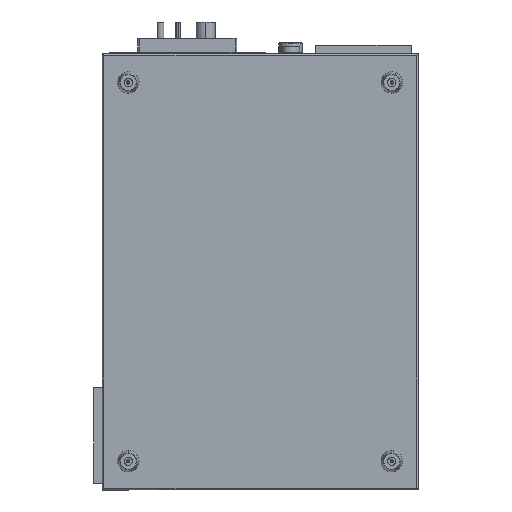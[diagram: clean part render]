
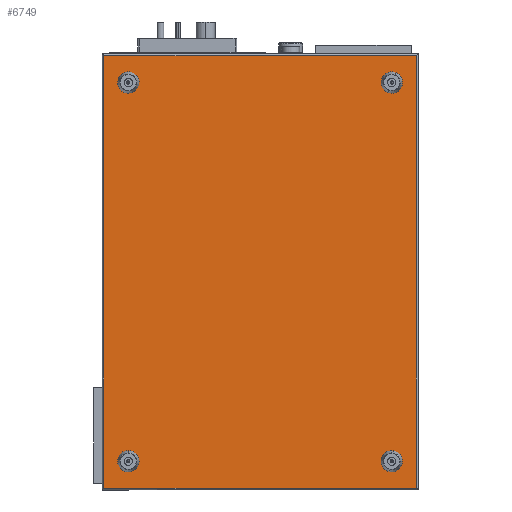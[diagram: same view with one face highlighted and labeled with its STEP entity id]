
A CAD part, front view. The second image highlights one B-rep face of the part: STEP entity #6749.
In plain terms, the highlighted planar face has unit normal (0, -1, 0).
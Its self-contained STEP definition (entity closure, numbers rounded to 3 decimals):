
#9 = VERTEX_POINT ( 'NONE', #9819 ) ;
#25 = FACE_BOUND ( 'NONE', #10509, .T. ) ;
#244 = VECTOR ( 'NONE', #7335, 1000. ) ;
#295 = DIRECTION ( 'NONE',  ( 0., 0., -1. ) ) ;
#314 = DIRECTION ( 'NONE',  ( 0., -1., 0. ) ) ;
#350 = CARTESIAN_POINT ( 'NONE',  ( 0., -1.5, 0. ) ) ;
#377 = LINE ( 'NONE', #2266, #244 ) ;
#408 = LINE ( 'NONE', #3210, #1540 ) ;
#422 = DIRECTION ( 'NONE',  ( 0., -1., 0. ) ) ;
#462 = EDGE_CURVE ( 'NONE', #10344, #10081, #4402, .T. ) ;
#477 = CIRCLE ( 'NONE', #9040, 1.65 ) ;
#694 = VERTEX_POINT ( 'NONE', #8421 ) ;
#760 = EDGE_CURVE ( 'NONE', #9, #4013, #1677, .T. ) ;
#782 = ORIENTED_EDGE ( 'NONE', *, *, #5470, .F. ) ;
#942 = CARTESIAN_POINT ( 'NONE',  ( 189.76, -1.5, 262.76 ) ) ;
#1035 = EDGE_CURVE ( 'NONE', #4020, #2489, #408, .T. ) ;
#1050 = DIRECTION ( 'NONE',  ( 1., 0., 0. ) ) ;
#1125 = DIRECTION ( 'NONE',  ( 0., 0., -1. ) ) ;
#1176 = CARTESIAN_POINT ( 'NONE',  ( 159.922, -1.5, -231.722 ) ) ;
#1196 = FACE_BOUND ( 'NONE', #9222, .T. ) ;
#1207 = ORIENTED_EDGE ( 'NONE', *, *, #7307, .F. ) ;
#1300 = CARTESIAN_POINT ( 'NONE',  ( -160.078, -1.5, -230.072 ) ) ;
#1340 = CARTESIAN_POINT ( 'NONE',  ( 159.922, -1.5, -228.422 ) ) ;
#1341 = EDGE_CURVE ( 'NONE', #8015, #5950, #2970, .T. ) ;
#1358 = EDGE_CURVE ( 'NONE', #10098, #694, #2573, .T. ) ;
#1436 = ORIENTED_EDGE ( 'NONE', *, *, #2170, .F. ) ;
#1493 = CARTESIAN_POINT ( 'NONE',  ( -160.078, -1.5, -231.722 ) ) ;
#1540 = VECTOR ( 'NONE', #7339, 1000. ) ;
#1677 = LINE ( 'NONE', #2708, #8544 ) ;
#1760 = CARTESIAN_POINT ( 'NONE',  ( 192., -1.5, -262.76 ) ) ;
#1863 = EDGE_CURVE ( 'NONE', #9313, #9794, #3097, .T. ) ;
#1882 = DIRECTION ( 'NONE',  ( 0., -1., 0. ) ) ;
#1935 = DIRECTION ( 'NONE',  ( 0., -1., 0. ) ) ;
#2094 = DIRECTION ( 'NONE',  ( 0., -1., 0. ) ) ;
#2124 = ORIENTED_EDGE ( 'NONE', *, *, #1863, .F. ) ;
#2170 = EDGE_CURVE ( 'NONE', #694, #10098, #4114, .T. ) ;
#2266 = CARTESIAN_POINT ( 'NONE',  ( -192., -1.5, 262.76 ) ) ;
#2346 = EDGE_CURVE ( 'NONE', #2489, #9, #377, .T. ) ;
#2418 = LINE ( 'NONE', #1760, #4246 ) ;
#2489 = VERTEX_POINT ( 'NONE', #942 ) ;
#2573 = CIRCLE ( 'NONE', #9442, 1.65 ) ;
#2595 = ORIENTED_EDGE ( 'NONE', *, *, #760, .T. ) ;
#2599 = CARTESIAN_POINT ( 'NONE',  ( -160.078, -1.5, 231.578 ) ) ;
#2708 = CARTESIAN_POINT ( 'NONE',  ( -189.76, -1.5, 0. ) ) ;
#2720 = DIRECTION ( 'NONE',  ( 0., 0., -1. ) ) ;
#2790 = CARTESIAN_POINT ( 'NONE',  ( 159.922, -1.5, 231.578 ) ) ;
#2849 = DIRECTION ( 'NONE',  ( 0., 0., -1. ) ) ;
#2870 = CIRCLE ( 'NONE', #6334, 1.65 ) ;
#2970 = CIRCLE ( 'NONE', #4091, 1.65 ) ;
#3097 = CIRCLE ( 'NONE', #8676, 1.65 ) ;
#3210 = CARTESIAN_POINT ( 'NONE',  ( 189.76, -1.5, 265. ) ) ;
#3246 = EDGE_LOOP ( 'NONE', ( #2595, #10545, #6434, #4730 ) ) ;
#3439 = EDGE_LOOP ( 'NONE', ( #6443, #3889 ) ) ;
#3620 = DIRECTION ( 'NONE',  ( 0., 0., -1. ) ) ;
#3685 = CARTESIAN_POINT ( 'NONE',  ( 159.922, -1.5, 228.278 ) ) ;
#3762 = CARTESIAN_POINT ( 'NONE',  ( -160.078, -1.5, 229.928 ) ) ;
#3781 = FACE_BOUND ( 'NONE', #7445, .T. ) ;
#3889 = ORIENTED_EDGE ( 'NONE', *, *, #4226, .F. ) ;
#4013 = VERTEX_POINT ( 'NONE', #8601 ) ;
#4020 = VERTEX_POINT ( 'NONE', #8567 ) ;
#4091 = AXIS2_PLACEMENT_3D ( 'NONE', #7746, #4437, #295 ) ;
#4114 = CIRCLE ( 'NONE', #7546, 1.65 ) ;
#4187 = CARTESIAN_POINT ( 'NONE',  ( 159.922, -1.5, -230.072 ) ) ;
#4226 = EDGE_CURVE ( 'NONE', #5950, #8015, #477, .T. ) ;
#4246 = VECTOR ( 'NONE', #1050, 1000. ) ;
#4402 = CIRCLE ( 'NONE', #7101, 1.65 ) ;
#4437 = DIRECTION ( 'NONE',  ( 0., -1., 0. ) ) ;
#4456 = CARTESIAN_POINT ( 'NONE',  ( 159.922, -1.5, -230.072 ) ) ;
#4624 = DIRECTION ( 'NONE',  ( 0., 0., -1. ) ) ;
#4730 = ORIENTED_EDGE ( 'NONE', *, *, #2346, .T. ) ;
#4751 = AXIS2_PLACEMENT_3D ( 'NONE', #350, #1882, #2720 ) ;
#5470 = EDGE_CURVE ( 'NONE', #10081, #10344, #10635, .T. ) ;
#5491 = DIRECTION ( 'NONE',  ( 0., -1., 0. ) ) ;
#5869 = DIRECTION ( 'NONE',  ( 0., -1., 0. ) ) ;
#5913 = CARTESIAN_POINT ( 'NONE',  ( -160.078, -1.5, 228.278 ) ) ;
#5950 = VERTEX_POINT ( 'NONE', #2790 ) ;
#6056 = DIRECTION ( 'NONE',  ( 0., 0., -1. ) ) ;
#6100 = CARTESIAN_POINT ( 'NONE',  ( 159.922, -1.5, 229.928 ) ) ;
#6184 = CARTESIAN_POINT ( 'NONE',  ( -160.078, -1.5, -230.072 ) ) ;
#6263 = DIRECTION ( 'NONE',  ( 0., 0., -1. ) ) ;
#6334 = AXIS2_PLACEMENT_3D ( 'NONE', #4456, #314, #6056 ) ;
#6434 = ORIENTED_EDGE ( 'NONE', *, *, #1035, .T. ) ;
#6443 = ORIENTED_EDGE ( 'NONE', *, *, #1341, .F. ) ;
#6749 = ADVANCED_FACE ( 'NONE', ( #1196, #8299, #25, #3781, #10485 ), #10136, .T. ) ;
#7101 = AXIS2_PLACEMENT_3D ( 'NONE', #7972, #5491, #4624 ) ;
#7307 = EDGE_CURVE ( 'NONE', #9794, #9313, #2870, .T. ) ;
#7335 = DIRECTION ( 'NONE',  ( -1., 0., 0. ) ) ;
#7339 = DIRECTION ( 'NONE',  ( 0., 0., 1. ) ) ;
#7445 = EDGE_LOOP ( 'NONE', ( #1207, #2124 ) ) ;
#7546 = AXIS2_PLACEMENT_3D ( 'NONE', #1300, #2094, #6263 ) ;
#7746 = CARTESIAN_POINT ( 'NONE',  ( 159.922, -1.5, 229.928 ) ) ;
#7768 = DIRECTION ( 'NONE',  ( 0., 0., -1. ) ) ;
#7972 = CARTESIAN_POINT ( 'NONE',  ( -160.078, -1.5, 229.928 ) ) ;
#8015 = VERTEX_POINT ( 'NONE', #3685 ) ;
#8299 = FACE_BOUND ( 'NONE', #3439, .T. ) ;
#8421 = CARTESIAN_POINT ( 'NONE',  ( -160.078, -1.5, -228.422 ) ) ;
#8544 = VECTOR ( 'NONE', #1125, 1000. ) ;
#8567 = CARTESIAN_POINT ( 'NONE',  ( 189.76, -1.5, -262.76 ) ) ;
#8583 = DIRECTION ( 'NONE',  ( 0., -1., 0. ) ) ;
#8601 = CARTESIAN_POINT ( 'NONE',  ( -189.76, -1.5, -262.76 ) ) ;
#8676 = AXIS2_PLACEMENT_3D ( 'NONE', #4187, #5869, #9948 ) ;
#9040 = AXIS2_PLACEMENT_3D ( 'NONE', #6100, #8583, #3620 ) ;
#9222 = EDGE_LOOP ( 'NONE', ( #782, #10588 ) ) ;
#9313 = VERTEX_POINT ( 'NONE', #1340 ) ;
#9327 = ORIENTED_EDGE ( 'NONE', *, *, #1358, .F. ) ;
#9442 = AXIS2_PLACEMENT_3D ( 'NONE', #6184, #1935, #2849 ) ;
#9794 = VERTEX_POINT ( 'NONE', #1176 ) ;
#9819 = CARTESIAN_POINT ( 'NONE',  ( -189.76, -1.5, 262.76 ) ) ;
#9948 = DIRECTION ( 'NONE',  ( 0., 0., -1. ) ) ;
#10081 = VERTEX_POINT ( 'NONE', #5913 ) ;
#10098 = VERTEX_POINT ( 'NONE', #1493 ) ;
#10136 = PLANE ( 'NONE',  #4751 ) ;
#10214 = AXIS2_PLACEMENT_3D ( 'NONE', #3762, #422, #7768 ) ;
#10344 = VERTEX_POINT ( 'NONE', #2599 ) ;
#10353 = EDGE_CURVE ( 'NONE', #4013, #4020, #2418, .T. ) ;
#10485 = FACE_OUTER_BOUND ( 'NONE', #3246, .T. ) ;
#10509 = EDGE_LOOP ( 'NONE', ( #9327, #1436 ) ) ;
#10545 = ORIENTED_EDGE ( 'NONE', *, *, #10353, .T. ) ;
#10588 = ORIENTED_EDGE ( 'NONE', *, *, #462, .F. ) ;
#10635 = CIRCLE ( 'NONE', #10214, 1.65 ) ;
